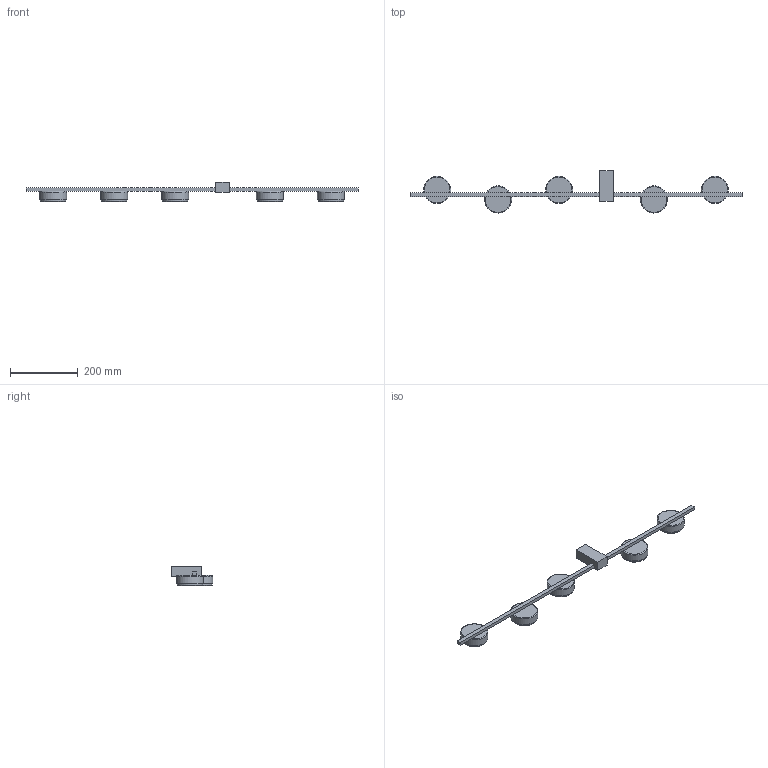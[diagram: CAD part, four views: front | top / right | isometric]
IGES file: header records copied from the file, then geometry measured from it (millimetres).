
Start section: SolidWorks IGES file using analytic representation for surfaces
Global section: file name: X:\PRODUKT\Modele 3D_WWW\_KOLEKCJE WWW\PILLS\8262\PILLS-V-8262.IGS; native system: SolidWorks 2021; preprocessor: SolidWorks 2021; author: gabriela.tworek; date: 221212.105450; units: millimetre
Bounding box: 980 x 123.95 x 57.55 mm (x, y, z)
Surface area: 187165.9 mm2 (no closed solid volume)
Topology: 0 solids, 0 shells, 52 faces, 128 edges, 108 vertices
Faces by surface type: bspline 32, revolution 20
